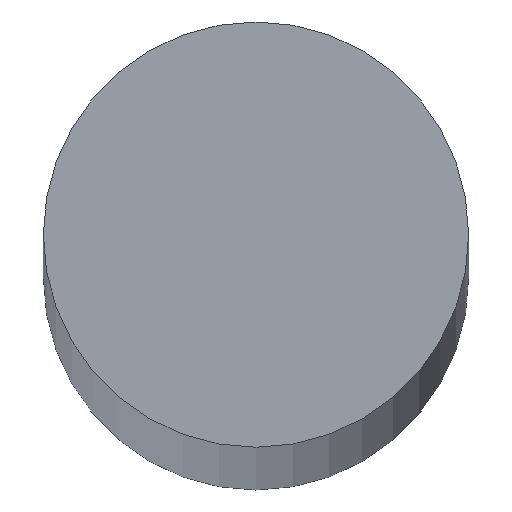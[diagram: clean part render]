
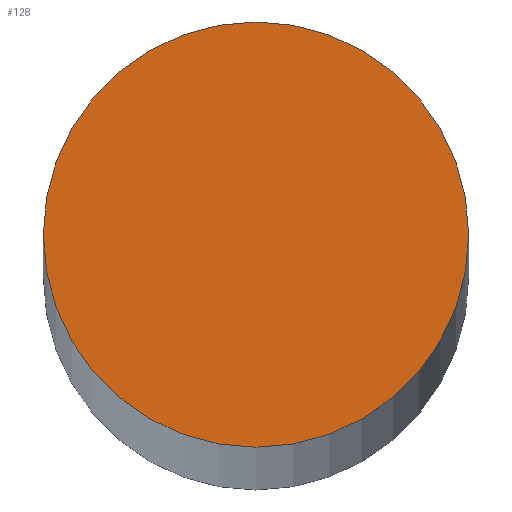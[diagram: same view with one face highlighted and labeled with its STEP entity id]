
A CAD part, top view. The second image highlights one B-rep face of the part: STEP entity #128.
In plain terms, the highlighted planar face has unit normal (0, 0, 1).
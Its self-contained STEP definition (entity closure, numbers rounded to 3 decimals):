
#10 = ORIENTED_EDGE ( 'NONE', *, *, #71, .T. ) ;
#11 = ORIENTED_EDGE ( 'NONE', *, *, #54, .T. ) ;
#23 = EDGE_LOOP ( 'NONE', ( #11, #10 ) ) ;
#28 = CIRCLE ( 'NONE', #52, 6. ) ;
#31 = FACE_OUTER_BOUND ( 'NONE', #23, .T. ) ;
#35 = CIRCLE ( 'NONE', #72, 6. ) ;
#52 = AXIS2_PLACEMENT_3D ( 'NONE', #77, #78, #79 ) ;
#54 = EDGE_CURVE ( 'NONE', #137, #73, #28, .T. ) ;
#70 = AXIS2_PLACEMENT_3D ( 'NONE', #102, #105, #106 ) ;
#71 = EDGE_CURVE ( 'NONE', #73, #137, #35, .T. ) ;
#72 = AXIS2_PLACEMENT_3D ( 'NONE', #80, #90, #91 ) ;
#73 = VERTEX_POINT ( 'NONE', #88 ) ;
#77 = CARTESIAN_POINT ( 'NONE',  ( 0., 0., 345.5 ) ) ;
#78 = DIRECTION ( 'NONE',  ( 0., 0., 1. ) ) ;
#79 = DIRECTION ( 'NONE',  ( 1., 0., 0. ) ) ;
#80 = CARTESIAN_POINT ( 'NONE',  ( 0., 0., 345.5 ) ) ;
#88 = CARTESIAN_POINT ( 'NONE',  ( 6., 0., 345.5 ) ) ;
#90 = DIRECTION ( 'NONE',  ( 0., 0., 1. ) ) ;
#91 = DIRECTION ( 'NONE',  ( 1., 0., 0. ) ) ;
#97 = CARTESIAN_POINT ( 'NONE',  ( -6., 0., 345.5 ) ) ;
#102 = CARTESIAN_POINT ( 'NONE',  ( 0., 0., 345.5 ) ) ;
#103 = PLANE ( 'NONE',  #70 ) ;
#105 = DIRECTION ( 'NONE',  ( 0., 0., 1. ) ) ;
#106 = DIRECTION ( 'NONE',  ( 1., 0., 0. ) ) ;
#128 = ADVANCED_FACE ( 'NONE', ( #31 ), #103, .T. ) ;
#137 = VERTEX_POINT ( 'NONE', #97 ) ;
